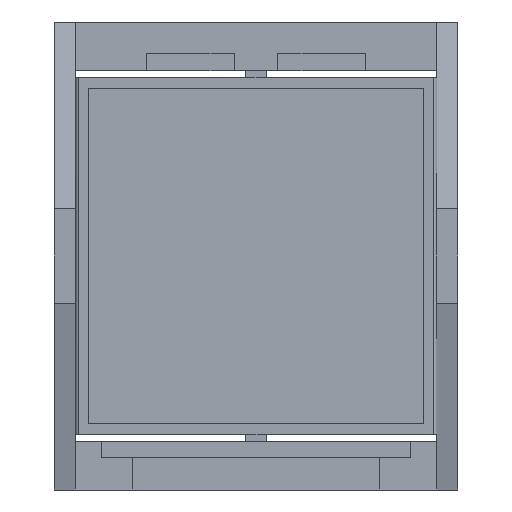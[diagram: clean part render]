
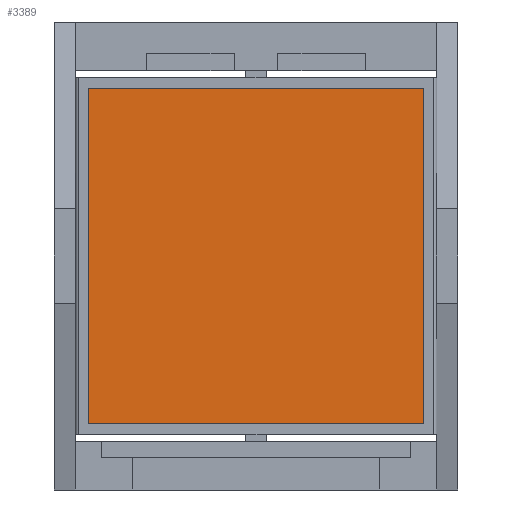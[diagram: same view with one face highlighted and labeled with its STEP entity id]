
A CAD part, front view. The second image highlights one B-rep face of the part: STEP entity #3389.
In plain terms, the highlighted planar face has unit normal (0, -1, 0).
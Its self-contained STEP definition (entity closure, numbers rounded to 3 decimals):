
#143 = DIRECTION ( 'NONE',  ( 0., 0., 1. ) ) ;
#236 = VECTOR ( 'NONE', #3422, 1000. ) ;
#449 = AXIS2_PLACEMENT_3D ( 'NONE', #6711, #5535, #3880 ) ;
#455 = VERTEX_POINT ( 'NONE', #1991 ) ;
#640 = LINE ( 'NONE', #5222, #5710 ) ;
#940 = VERTEX_POINT ( 'NONE', #3786 ) ;
#1031 = ORIENTED_EDGE ( 'NONE', *, *, #1236, .F. ) ;
#1145 = DIRECTION ( 'NONE',  ( -1., 0., 0. ) ) ;
#1236 = EDGE_CURVE ( 'NONE', #455, #940, #5028, .T. ) ;
#1432 = EDGE_CURVE ( 'NONE', #6729, #3713, #1697, .T. ) ;
#1697 = LINE ( 'NONE', #2885, #236 ) ;
#1774 = ORIENTED_EDGE ( 'NONE', *, *, #2166, .F. ) ;
#1991 = CARTESIAN_POINT ( 'NONE',  ( 15.228, -3.744, -10.991 ) ) ;
#2166 = EDGE_CURVE ( 'NONE', #3713, #455, #2567, .T. ) ;
#2567 = LINE ( 'NONE', #7041, #7144 ) ;
#2689 = DIRECTION ( 'NONE',  ( 0., 0., -1. ) ) ;
#2750 = CARTESIAN_POINT ( 'NONE',  ( 15.228, -3.744, 12.009 ) ) ;
#2885 = CARTESIAN_POINT ( 'NONE',  ( -7.772, -3.744, 12.009 ) ) ;
#3389 = ADVANCED_FACE ( 'NONE', ( #3915 ), #6220, .F. ) ;
#3422 = DIRECTION ( 'NONE',  ( 1., 0., 0. ) ) ;
#3713 = VERTEX_POINT ( 'NONE', #2750 ) ;
#3786 = CARTESIAN_POINT ( 'NONE',  ( -7.772, -3.744, -10.991 ) ) ;
#3880 = DIRECTION ( 'NONE',  ( 0., 0., 1. ) ) ;
#3915 = FACE_OUTER_BOUND ( 'NONE', #6854, .T. ) ;
#5028 = LINE ( 'NONE', #6187, #6660 ) ;
#5222 = CARTESIAN_POINT ( 'NONE',  ( -7.772, -3.744, -10.991 ) ) ;
#5480 = ORIENTED_EDGE ( 'NONE', *, *, #6171, .F. ) ;
#5535 = DIRECTION ( 'NONE',  ( 0., 1., 0. ) ) ;
#5625 = CARTESIAN_POINT ( 'NONE',  ( -7.772, -3.744, 12.009 ) ) ;
#5710 = VECTOR ( 'NONE', #143, 1000. ) ;
#5773 = ORIENTED_EDGE ( 'NONE', *, *, #1432, .F. ) ;
#6171 = EDGE_CURVE ( 'NONE', #940, #6729, #640, .T. ) ;
#6187 = CARTESIAN_POINT ( 'NONE',  ( -7.772, -3.744, -10.991 ) ) ;
#6220 = PLANE ( 'NONE',  #449 ) ;
#6660 = VECTOR ( 'NONE', #1145, 1000. ) ;
#6711 = CARTESIAN_POINT ( 'NONE',  ( -7.772, -3.744, 12.009 ) ) ;
#6729 = VERTEX_POINT ( 'NONE', #5625 ) ;
#6854 = EDGE_LOOP ( 'NONE', ( #5480, #1031, #1774, #5773 ) ) ;
#7041 = CARTESIAN_POINT ( 'NONE',  ( 15.228, -3.744, -10.991 ) ) ;
#7144 = VECTOR ( 'NONE', #2689, 1000. ) ;
